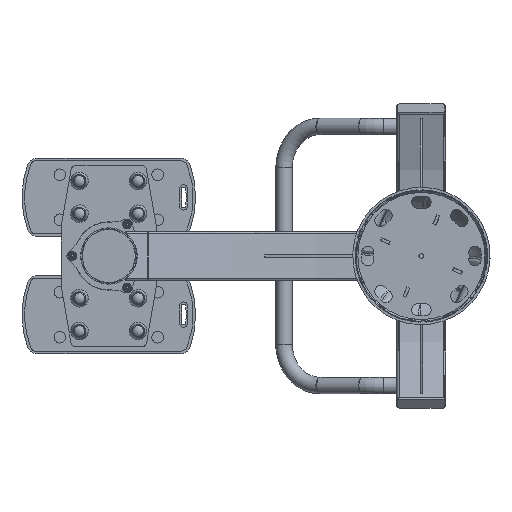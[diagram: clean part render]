
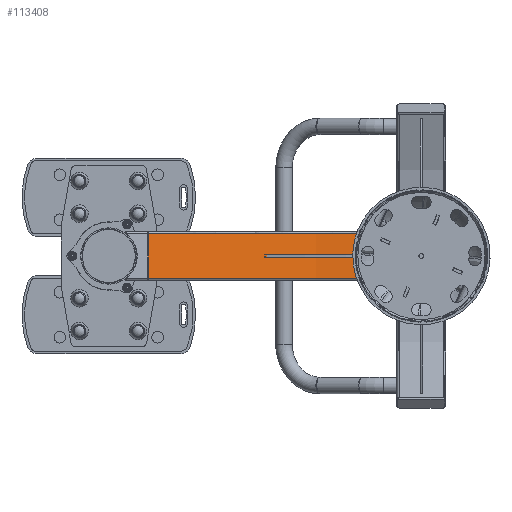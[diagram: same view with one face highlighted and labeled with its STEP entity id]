
A CAD part, front view. The second image highlights one B-rep face of the part: STEP entity #113408.
In plain terms, the highlighted cylindrical face has radius 1175 mm (diameter 2350 mm), a partial arc.
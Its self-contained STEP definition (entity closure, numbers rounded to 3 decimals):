
#849 = VECTOR ( 'NONE', #133461, 1000. ) ;
#17630 = VERTEX_POINT ( 'NONE', #108874 ) ;
#19373 = CIRCLE ( 'NONE', #51294, 1175. ) ;
#23832 = VERTEX_POINT ( 'NONE', #106620 ) ;
#25459 = ORIENTED_EDGE ( 'NONE', *, *, #92929, .T. ) ;
#35963 = DIRECTION ( 'NONE',  ( 0., 0., -1. ) ) ;
#37505 = DIRECTION ( 'NONE',  ( -1., 0., 0. ) ) ;
#41885 = AXIS2_PLACEMENT_3D ( 'NONE', #98582, #86719, #128563 ) ;
#43676 = EDGE_CURVE ( 'NONE', #17630, #23832, #19373, .T. ) ;
#44847 = VECTOR ( 'NONE', #176634, 1000. ) ;
#47688 = CARTESIAN_POINT ( 'NONE',  ( -35.484, 1174.464, 45. ) ) ;
#49051 = CARTESIAN_POINT ( 'NONE',  ( -558.69, 1033.678, 45. ) ) ;
#51294 = AXIS2_PLACEMENT_3D ( 'NONE', #107509, #91140, #37505 ) ;
#64798 = LINE ( 'NONE', #163886, #44847 ) ;
#86719 = DIRECTION ( 'NONE',  ( 0., 0., -1. ) ) ;
#87541 = AXIS2_PLACEMENT_3D ( 'NONE', #160521, #35963, #175064 ) ;
#88447 = EDGE_CURVE ( 'NONE', #134199, #169208, #122361, .T. ) ;
#91140 = DIRECTION ( 'NONE',  ( 0., 0., -1. ) ) ;
#92929 = EDGE_CURVE ( 'NONE', #23832, #169208, #118025, .T. ) ;
#98582 = CARTESIAN_POINT ( 'NONE',  ( 0., 0., -216.752 ) ) ;
#104371 = CARTESIAN_POINT ( 'NONE',  ( -35.484, 1174.464, -50. ) ) ;
#106620 = CARTESIAN_POINT ( 'NONE',  ( -35.484, 1174.464, -45. ) ) ;
#107509 = CARTESIAN_POINT ( 'NONE',  ( 0., 0., -45. ) ) ;
#108874 = CARTESIAN_POINT ( 'NONE',  ( -558.69, 1033.678, -45. ) ) ;
#113144 = FACE_OUTER_BOUND ( 'NONE', #153199, .T. ) ;
#113408 = ADVANCED_FACE ( 'NONE', ( #113144 ), #139543, .F. ) ;
#114032 = EDGE_CURVE ( 'NONE', #17630, #134199, #64798, .T. ) ;
#118025 = LINE ( 'NONE', #104371, #849 ) ;
#122361 = CIRCLE ( 'NONE', #87541, 1175. ) ;
#128563 = DIRECTION ( 'NONE',  ( -1., 0., 0. ) ) ;
#133461 = DIRECTION ( 'NONE',  ( 0., 0., 1. ) ) ;
#134199 = VERTEX_POINT ( 'NONE', #49051 ) ;
#139543 = CYLINDRICAL_SURFACE ( 'NONE', #41885, 1175. ) ;
#141024 = ORIENTED_EDGE ( 'NONE', *, *, #88447, .F. ) ;
#153199 = EDGE_LOOP ( 'NONE', ( #153705, #25459, #141024, #156564 ) ) ;
#153705 = ORIENTED_EDGE ( 'NONE', *, *, #43676, .T. ) ;
#156564 = ORIENTED_EDGE ( 'NONE', *, *, #114032, .F. ) ;
#160521 = CARTESIAN_POINT ( 'NONE',  ( 0., 0., 45. ) ) ;
#163886 = CARTESIAN_POINT ( 'NONE',  ( -558.69, 1033.678, -50. ) ) ;
#169208 = VERTEX_POINT ( 'NONE', #47688 ) ;
#175064 = DIRECTION ( 'NONE',  ( -1., 0., 0. ) ) ;
#176634 = DIRECTION ( 'NONE',  ( 0., 0., 1. ) ) ;
